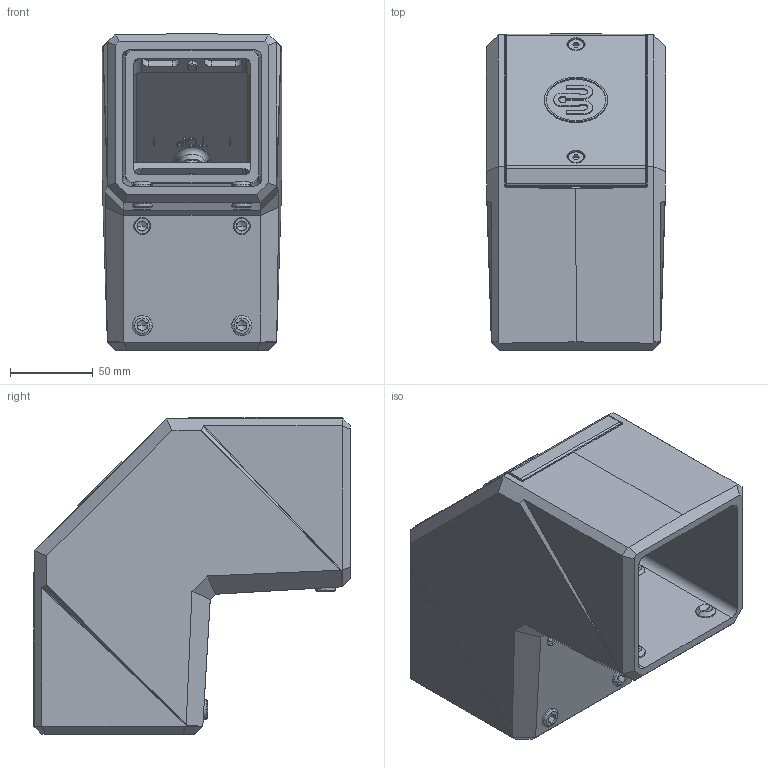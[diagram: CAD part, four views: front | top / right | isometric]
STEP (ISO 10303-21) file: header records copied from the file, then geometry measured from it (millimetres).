
FILE_DESCRIPTION((''),'2;1');
FILE_NAME('1016708000_SW0001','2020-04-09T12:27:01',('Falk.Schoember'),(''),'CREO PARAMETRIC BY PTC INC, 2018300','CREO PARAMETRIC BY PTC INC, 2018300','');
FILE_SCHEMA(('AUTOMOTIVE_DESIGN { 1 0 10303 214 1 1 1 1 }'));
Length unit declared in the file: millimetre
Products named in the file (1): 1016708000_SW0001
Bounding box: 108.07 x 191 x 191 mm (x, y, z)
Volume: 1016099.1 mm3; surface area: 205987.2 mm2
Topology: 1 solids, 2 shells, 700 faces, 1770 edges, 1076 vertices
Faces by surface type: plane 446, cylinder 156, cone 68, bspline 16, sphere 8, torus 6
Entity records: 36484 total; most frequent: CARTESIAN_POINT 6077, ORIENTED_EDGE 3476, DIRECTION 3377, PRESENTATION_STYLE_ASSIGNMENT 2437, STYLED_ITEM 1739, CURVE_STYLE 1738, EDGE_CURVE 1738, FILL_AREA_STYLE_COLOUR 1342
